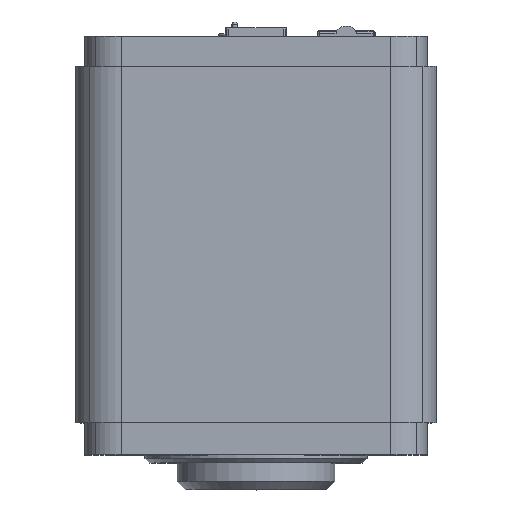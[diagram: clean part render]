
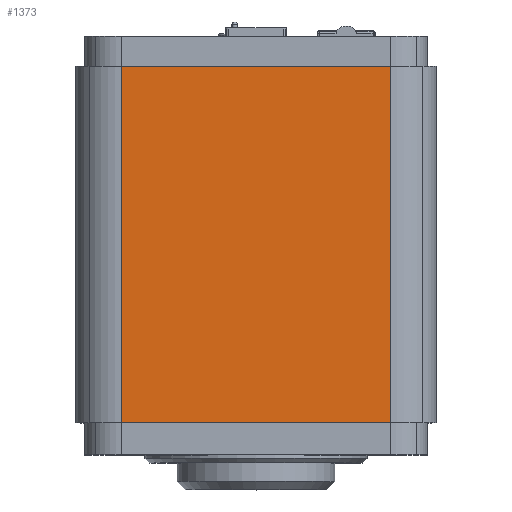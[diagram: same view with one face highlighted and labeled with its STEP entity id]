
A CAD part, top view. The second image highlights one B-rep face of the part: STEP entity #1373.
In plain terms, the highlighted planar face has unit normal (0, 0, 1).
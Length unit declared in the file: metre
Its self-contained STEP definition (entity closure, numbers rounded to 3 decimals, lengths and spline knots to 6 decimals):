
#1373=ADVANCED_FACE('0:16624',(#4474),#4475,.T.);
#4474=FACE_OUTER_BOUND('',#8130,.T.);
#4475=PLANE('',#8131);
#8130=EDGE_LOOP('',(#21125,#21126,#21127,#21128));
#8131=AXIS2_PLACEMENT_3D('',#21129,#21130,#21131);
#21125=ORIENTED_EDGE('',*,*,#27086,.F.);
#21126=ORIENTED_EDGE('',*,*,#30005,.F.);
#21127=ORIENTED_EDGE('',*,*,#27074,.F.);
#21128=ORIENTED_EDGE('',*,*,#29996,.F.);
#21129=CARTESIAN_POINT('',(0.0,0.0,0.065));
#21130=DIRECTION('',(0.0,0.0,1.0));
#21131=DIRECTION('',(1.0,0.0,0.0));
#27074=EDGE_CURVE('0:20956',#33029,#33031,#33032,.T.);
#27086=EDGE_CURVE('0:20920',#33053,#33055,#33056,.T.);
#29996=EDGE_CURVE('0:25309',#33055,#33029,#37841,.T.);
#30005=EDGE_CURVE('0:25336',#33031,#33053,#37851,.T.);
#33029=VERTEX_POINT('',#41880);
#33031=VERTEX_POINT('',#41882);
#33032=LINE('',#41883,#41884);
#33053=VERTEX_POINT('',#41910);
#33055=VERTEX_POINT('',#41912);
#33056=LINE('',#41913,#41914);
#37841=LINE('',#49111,#49112);
#37851=LINE('',#49130,#49131);
#41880=CARTESIAN_POINT('',(0.029,0.0385,0.065));
#41882=CARTESIAN_POINT('',(0.029,-0.0385,0.065));
#41883=CARTESIAN_POINT('',(0.029,0.0,0.065));
#41884=VECTOR('',#53649,1.0);
#41910=CARTESIAN_POINT('',(-0.029,-0.0385,0.065));
#41912=CARTESIAN_POINT('',(-0.029,0.0385,0.065));
#41913=CARTESIAN_POINT('',(-0.029,0.0,0.065));
#41914=VECTOR('',#53673,1.0);
#49111=CARTESIAN_POINT('',(-0.039,0.0385,0.065));
#49112=VECTOR('',#59121,1.0);
#49130=CARTESIAN_POINT('',(0.039,-0.0385,0.065));
#49131=VECTOR('',#59130,1.0);
#53649=DIRECTION('',(0.0,-1.0,0.0));
#53673=DIRECTION('',(0.0,1.0,-0.0));
#59121=DIRECTION('',(1.0,0.0,0.0));
#59130=DIRECTION('',(-1.0,0.0,0.0));
